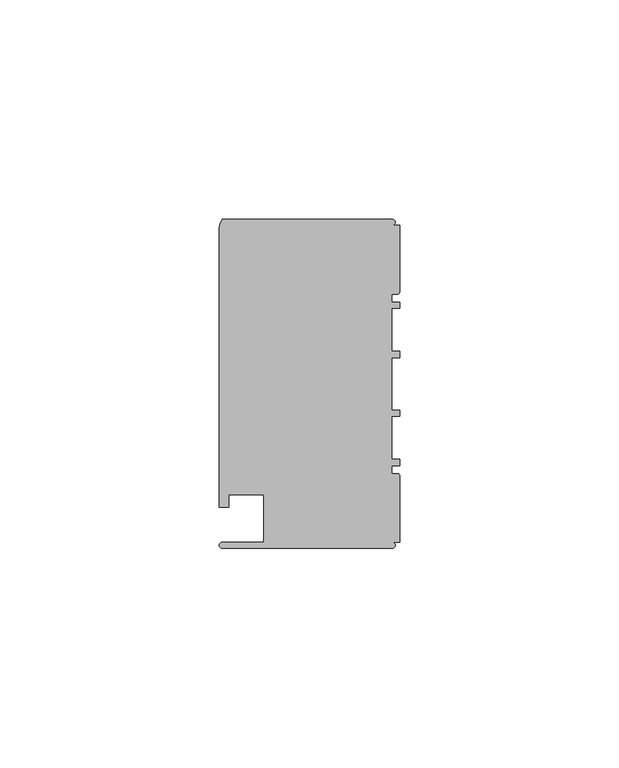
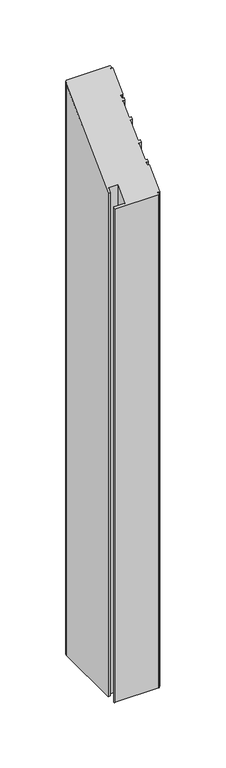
"""IFC4 building model written with IfcOpenShell, lengths in millimetres: member geometry, Прямоугольный импост : 1-AMG-1-Профиль 40Х75 Низ Л."""

from ifc_helpers import new_model, si_unit, frame, origin, place, context, project, spatial, circle_curve, ellipse_curve, source, transform, mapped, element, save
from ifc_brep_helpers import plane_surface, cylinder_surface, advanced_brep


def member_4a05bf8b(model_context):
    return source(origin(), model_context, "Body", "AdvancedBrep", [
        advanced_brep(
        [(-1.7, -37.5, -498.8849139), (-40.4, -37.5, -498.8849139), (-40.4, -36.1, -498.8849139), (-31.0, -36.1, -498.8849139), (-31.0, -25.25, -498.8849139), (-39.0, -25.25, -498.8849139), (-39.0, -28.1, -498.8849139), (-41.1, -28.1, -498.8849139), (-41.1, 35.6, -498.8849139), (-40.4, 37.5, -498.8849139), (-1.7, 37.5, -498.8849139), (-1.7, 36.1, -498.8849139), (0.0, 36.1, -498.8849139), (0.0, 20.95, -498.8849139), (-0.5, 20.45, -498.8849139), (-1.8, 20.45, -498.8849139), (-1.8, 18.65, -498.8849139), (0.0, 18.65, -498.8849139), (0.0, 17.25, -498.8849139), (-1.8, 17.25, -498.8849139), (-1.8, 7.4, -498.8849139), (0.0, 7.4, -498.8849139), (0.0, 6.0, -498.8849139), (-1.8, 6.0, -498.8849139), (-1.8, -6.0, -498.8849139), (0.0, -6.0, -498.8849139), (0.0, -7.4, -498.8849139), (-1.8, -7.4, -498.8849139), (-1.8, -17.25, -498.8849139), (0.0, -17.25, -498.8849139), (0.0, -18.65, -498.8849139), (-1.8, -18.65, -498.8849139), (-1.8, -20.45, -498.8849139), (-0.5, -20.45, -498.8849139), (0.0, -20.95, -498.8849139), (0.0, -36.1, -498.8849139), (-1.7, -36.1, -498.8849139), (-1.7, -36.1, -36.1), (-1.7, -37.5, -37.5), (0.0, -36.1, -36.1), (0.0, -20.95, -20.95), (-0.5, -20.45, -20.45), (-1.8, -20.45, -20.45), (-1.8, -18.65, -18.65), (0.0, -18.65, -18.65), (0.0, -17.25, -17.25), (-1.8, -17.25, -17.25), (-1.8, -7.4, -7.4), (0.0, -7.4, -7.4), (0.0, -6.0, -6.0), (-1.8, -6.0, -6.0), (-1.8, 6.0, 6.0), (0.0, 6.0, 6.0), (0.0, 7.4, 7.4), (-1.8, 7.4, 7.4), (-1.8, 17.25, 17.25), (0.0, 17.25, 17.25), (0.0, 18.65, 18.65), (-1.8, 18.65, 18.65), (-1.8, 20.45, 20.45), (-0.5, 20.45, 20.45), (0.0, 20.95, 20.95), (0.0, 36.1, 36.1), (-1.7, 36.1, 36.1), (-1.7, 37.5, 37.5), (-40.4, 37.5, 37.5), (-41.1, 35.6, 35.6), (-41.1, -28.1, -28.1), (-39.0, -28.1, -28.1), (-39.0, -25.25, -25.25), (-31.0, -25.25, -25.25), (-31.0, -36.1, -36.1), (-40.4, -36.1, -36.1), (-40.4, -37.5, -37.5)],
        [
            (0, 1),
            (1, 2, circle_curve(frame((-40.4, -36.8, -498.8849139), z_axis=(0.0, 0.0, -1.0), x_axis=(-1.0, 0.0, 0.0)), 0.7)),
            (2, 3),
            (3, 4),
            (4, 5),
            (5, 6),
            (6, 7),
            (7, 8),
            (8, 9, circle_curve(frame((-38.1714286, 35.6, -498.8849139), z_axis=(0.0, 0.0, -1.0), x_axis=(-1.0, 0.0, 0.0)), 2.9285714)),
            (9, 10),
            (10, 11, circle_curve(frame((-1.7, 36.8, -498.8849139), z_axis=(0.0, 0.0, -1.0), x_axis=(-1.0, 0.0, 0.0)), 0.7)),
            (11, 12),
            (12, 13),
            (13, 14, circle_curve(frame((-0.5, 20.95, -498.8849139), z_axis=(0.0, 0.0, -1.0), x_axis=(0.0, -1.0, 0.0)), 0.5)),
            (14, 15),
            (15, 16),
            (16, 17),
            (17, 18),
            (18, 19),
            (19, 20),
            (20, 21),
            (21, 22),
            (22, 23),
            (23, 24),
            (24, 25),
            (25, 26),
            (26, 27),
            (27, 28),
            (28, 29),
            (29, 30),
            (30, 31),
            (31, 32),
            (32, 33),
            (33, 34, circle_curve(frame((-0.5, -20.95, -498.8849139), z_axis=(0.0, 0.0, -1.0), x_axis=(1.0, 0.0, 0.0)), 0.5)),
            (34, 35),
            (35, 36),
            (36, 0, circle_curve(frame((-1.7, -36.8, -498.8849139), z_axis=(0.0, 0.0, -1.0), x_axis=(-1.0, 0.0, 0.0)), 0.7)),
            (37, 38, ellipse_curve(frame((-1.7, -36.8, -36.8), z_axis=(0.0, 0.7071067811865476, -0.7071067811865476), x_axis=(0.0, 0.7071067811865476, 0.7071067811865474)), 0.9899495, 0.7)),
            (38, 0),
            (36, 37),
            (39, 37),
            (35, 39),
            (40, 39),
            (34, 40),
            (41, 40, ellipse_curve(frame((-0.5, -20.95, -20.95), z_axis=(0.0, 0.7071067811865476, -0.7071067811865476), x_axis=(0.0, 0.7071067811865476, 0.7071067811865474)), 0.7071068, 0.5)),
            (33, 41),
            (42, 41),
            (32, 42),
            (43, 42),
            (31, 43),
            (44, 43),
            (30, 44),
            (45, 44),
            (29, 45),
            (46, 45),
            (28, 46),
            (47, 46),
            (27, 47),
            (48, 47),
            (26, 48),
            (49, 48),
            (25, 49),
            (50, 49),
            (24, 50),
            (51, 50),
            (23, 51),
            (52, 51),
            (22, 52),
            (53, 52),
            (21, 53),
            (54, 53),
            (20, 54),
            (55, 54),
            (19, 55),
            (56, 55),
            (18, 56),
            (57, 56),
            (17, 57),
            (58, 57),
            (16, 58),
            (59, 58),
            (15, 59),
            (60, 59),
            (14, 60),
            (61, 60, ellipse_curve(frame((-0.5, 20.95, 20.95), z_axis=(0.0, 0.7071067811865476, -0.7071067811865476), x_axis=(0.0, 0.7071067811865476, 0.7071067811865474)), 0.7071068, 0.5)),
            (13, 61),
            (62, 61),
            (12, 62),
            (63, 62),
            (11, 63),
            (64, 63, ellipse_curve(frame((-1.7, 36.8, 36.8), z_axis=(0.0, 0.7071067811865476, -0.7071067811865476), x_axis=(0.0, 0.7071067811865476, 0.7071067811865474)), 0.9899495, 0.7)),
            (10, 64),
            (65, 64),
            (9, 65),
            (66, 65, ellipse_curve(frame((-38.1714286, 35.6, 35.6), z_axis=(0.0, 0.7071067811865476, -0.7071067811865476), x_axis=(0.0, 0.7071067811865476, 0.7071067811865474)), 4.1416254, 2.9285714)),
            (8, 66),
            (67, 66),
            (7, 67),
            (68, 67),
            (6, 68),
            (69, 68),
            (5, 69),
            (70, 69),
            (4, 70),
            (71, 70),
            (3, 71),
            (72, 71),
            (2, 72),
            (73, 72, ellipse_curve(frame((-40.4, -36.8, -36.8), z_axis=(0.0, 0.7071067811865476, -0.7071067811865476), x_axis=(0.0, 0.7071067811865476, 0.7071067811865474)), 0.9899495, 0.7)),
            (1, 73),
            (38, 73),
        ],
        [
            plane_surface(frame((0.0, -55.1674723, -498.8849139), z_axis=(0.0, 0.0, -1.0), x_axis=(-1.0, 0.0, 0.0))),
            cylinder_surface(frame((-1.7, -36.8, 0.0), z_axis=(0.0, 0.0, 1.0), x_axis=(-1.0, 0.0, 0.0)), 0.7),
            plane_surface(frame((-1.7, -36.1, 0.0), z_axis=(0.0, -1.0, 0.0), x_axis=(0.0, 0.0, -1.0))),
            plane_surface(frame((0.0, -36.1, 0.0), z_axis=(1.0, 0.0, 0.0), x_axis=(0.0, 0.0, -1.0))),
            cylinder_surface(frame((-0.5, -20.95, 0.0), z_axis=(0.0, 0.0, 1.0), x_axis=(1.0, 0.0, 0.0)), 0.5),
            plane_surface(frame((-0.5, -20.45, 0.0), z_axis=(0.0, 1.0, 0.0), x_axis=(0.0, 0.0, -1.0))),
            plane_surface(frame((-1.8, -20.45, 0.0), z_axis=(1.0, 0.0, 0.0), x_axis=(0.0, 0.0, -1.0))),
            plane_surface(frame((-1.8, -18.65, 0.0), z_axis=(0.0, -1.0, 0.0), x_axis=(0.0, 0.0, -1.0))),
            plane_surface(frame((0.0, -18.65, 0.0), z_axis=(1.0, 0.0, 0.0), x_axis=(0.0, 0.0, -1.0))),
            plane_surface(frame((0.0, -17.25, 0.0), z_axis=(0.0, 1.0, 0.0), x_axis=(0.0, 0.0, -1.0))),
            plane_surface(frame((-1.8, -17.25, 0.0), z_axis=(1.0, 0.0, 0.0), x_axis=(0.0, 0.0, -1.0))),
            plane_surface(frame((-1.8, -7.4, 0.0), z_axis=(0.0, -1.0, 0.0), x_axis=(0.0, 0.0, -1.0))),
            plane_surface(frame((0.0, -7.4, 0.0), z_axis=(1.0, 0.0, 0.0), x_axis=(0.0, 0.0, -1.0))),
            plane_surface(frame((0.0, -6.0, 0.0), z_axis=(0.0, 1.0, 0.0), x_axis=(0.0, 0.0, -1.0))),
            plane_surface(frame((-1.8, -6.0, 0.0), z_axis=(1.0, 0.0, 0.0), x_axis=(0.0, 0.0, -1.0))),
            plane_surface(frame((-1.8, 6.0, 0.0), z_axis=(0.0, -1.0, 0.0), x_axis=(0.0, 0.0, -1.0))),
            plane_surface(frame((0.0, 6.0, 0.0), z_axis=(1.0, 0.0, 0.0), x_axis=(0.0, 0.0, -1.0))),
            plane_surface(frame((0.0, 7.4, 0.0), z_axis=(0.0, 1.0, 0.0), x_axis=(0.0, 0.0, -1.0))),
            plane_surface(frame((-1.8, 7.4, 0.0), z_axis=(1.0, 0.0, 0.0), x_axis=(0.0, 0.0, -1.0))),
            plane_surface(frame((-1.8, 17.25, 0.0), z_axis=(0.0, -1.0, 0.0), x_axis=(0.0, 0.0, -1.0))),
            plane_surface(frame((0.0, 17.25, 0.0), z_axis=(1.0, 0.0, 0.0), x_axis=(0.0, 0.0, -1.0))),
            plane_surface(frame((0.0, 18.65, 0.0), z_axis=(0.0, 1.0, 0.0), x_axis=(0.0, 0.0, -1.0))),
            plane_surface(frame((-1.8, 18.65, 0.0), z_axis=(1.0, 0.0, 0.0), x_axis=(0.0, 0.0, -1.0))),
            plane_surface(frame((-1.8, 20.45, 0.0), z_axis=(0.0, -1.0, 0.0), x_axis=(0.0, 0.0, -1.0))),
            cylinder_surface(frame((-0.5, 20.95, 0.0), z_axis=(0.0, 0.0, 1.0), x_axis=(0.0, -1.0, 0.0)), 0.5),
            plane_surface(frame((0.0, 20.95, 0.0), z_axis=(1.0, 0.0, 0.0), x_axis=(0.0, 0.0, -1.0))),
            plane_surface(frame((0.0, 36.1, 0.0), z_axis=(0.0, 1.0, 0.0), x_axis=(0.0, 0.0, -1.0))),
            cylinder_surface(frame((-1.7, 36.8, 0.0), z_axis=(0.0, 0.0, 1.0), x_axis=(-1.0, 0.0, 0.0)), 0.7),
            plane_surface(frame((-1.7, 37.5, 0.0), z_axis=(0.0, 1.0, 0.0), x_axis=(0.0, 0.0, -1.0))),
            cylinder_surface(frame((-38.1714286, 35.6, 0.0), z_axis=(0.0, 0.0, 1.0), x_axis=(-1.0, 0.0, 0.0)), 2.9285714),
            plane_surface(frame((-41.1, 35.6, 0.0), z_axis=(-1.0, 0.0, 0.0), x_axis=(0.0, 0.0, -1.0))),
            plane_surface(frame((-41.1, -28.1, 0.0), z_axis=(0.0, -1.0, 0.0), x_axis=(0.0, 0.0, -1.0))),
            plane_surface(frame((-39.0, -28.1, 0.0), z_axis=(1.0, 0.0, 0.0), x_axis=(0.0, 0.0, -1.0))),
            plane_surface(frame((-39.0, -25.25, 0.0), z_axis=(0.0, -1.0, 0.0), x_axis=(0.0, 0.0, -1.0))),
            plane_surface(frame((-31.0, -25.25, 0.0), z_axis=(-1.0, 0.0, 0.0), x_axis=(0.0, 0.0, -1.0))),
            plane_surface(frame((-31.0, -36.1, 0.0), z_axis=(0.0, 1.0, 0.0), x_axis=(0.0, 0.0, -1.0))),
            cylinder_surface(frame((-40.4, -36.8, 0.0), z_axis=(0.0, 0.0, 1.0), x_axis=(-1.0, 0.0, 0.0)), 0.7),
            plane_surface(frame((-40.4, -37.5, 0.0), z_axis=(0.0, -1.0, 0.0), x_axis=(0.0, 0.0, -1.0))),
            plane_surface(frame((304.8, 0.0, 0.0), z_axis=(0.0, -0.7071067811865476, 0.7071067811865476), x_axis=(0.0, -0.7071067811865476, -0.7071067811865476))),
        ],
        [
            (0, [[1, 2, 3, 4, 5, 6, 7, 8, 9, 10, 11, 12, 13, 14, 15, 16, 17, 18, 19, 20, 21, 22, 23, 24, 25, 26, 27, 28, 29, 30, 31, 32, 33, 34, 35, 36, 37]]),
            (1, [[38, 39, -37, 40]]),
            (2, [[41, -40, -36, 42]]),
            (3, [[43, -42, -35, 44]]),
            (4, [[45, -44, -34, 46]]),
            (5, [[47, -46, -33, 48]]),
            (6, [[49, -48, -32, 50]]),
            (7, [[51, -50, -31, 52]]),
            (8, [[53, -52, -30, 54]]),
            (9, [[55, -54, -29, 56]]),
            (10, [[57, -56, -28, 58]]),
            (11, [[59, -58, -27, 60]]),
            (12, [[61, -60, -26, 62]]),
            (13, [[63, -62, -25, 64]]),
            (14, [[65, -64, -24, 66]]),
            (15, [[67, -66, -23, 68]]),
            (16, [[69, -68, -22, 70]]),
            (17, [[71, -70, -21, 72]]),
            (18, [[73, -72, -20, 74]]),
            (19, [[75, -74, -19, 76]]),
            (20, [[77, -76, -18, 78]]),
            (21, [[79, -78, -17, 80]]),
            (22, [[81, -80, -16, 82]]),
            (23, [[83, -82, -15, 84]]),
            (24, [[85, -84, -14, 86]]),
            (25, [[87, -86, -13, 88]]),
            (26, [[89, -88, -12, 90]]),
            (27, [[91, -90, -11, 92]]),
            (28, [[93, -92, -10, 94]]),
            (29, [[95, -94, -9, 96]]),
            (30, [[97, -96, -8, 98]]),
            (31, [[99, -98, -7, 100]]),
            (32, [[101, -100, -6, 102]]),
            (33, [[103, -102, -5, 104]]),
            (34, [[105, -104, -4, 106]]),
            (35, [[107, -106, -3, 108]]),
            (36, [[109, -108, -2, 110]]),
            (37, [[111, -110, -1, -39]]),
            (38, [[-38, -41, -43, -45, -47, -49, -51, -53, -55, -57, -59, -61, -63, -65, -67, -69, -71, -73, -75, -77, -79, -81, -83, -85, -87, -89, -91, -93, -95, -97, -99, -101, -103, -105, -107, -109, -111]]),
        ],
    ),
    ])


if __name__ == "__main__":
    model = new_model("IFC4")
    model_context = context("Model", 3, world=origin())
    ifc_project = project(units=[si_unit("LENGTHUNIT", "METRE", prefix="MILLI")], contexts=[model_context])
    site = spatial("IfcSite", under=ifc_project)
    building = spatial("IfcBuilding", under=site)
    placement = place(None, origin())
    member_shape = member_4a05bf8b(model_context)
    element("IfcMember", 1, ObjectType="Прямоугольный импост : 1-AMG-1-Профиль 40Х75 Низ Л", at=placement, inside=building, context=model_context, shape_type="MappedRepresentation", body=[
        mapped(member_shape, transform((0.0, 0.0, 0.0), x_axis=(1.0, 0.0, 0.0), y_axis=(0.0, 1.0, 0.0), z_axis=(0.0, 0.0, 1.0))),
    ])
    save(model, "model.ifc")
